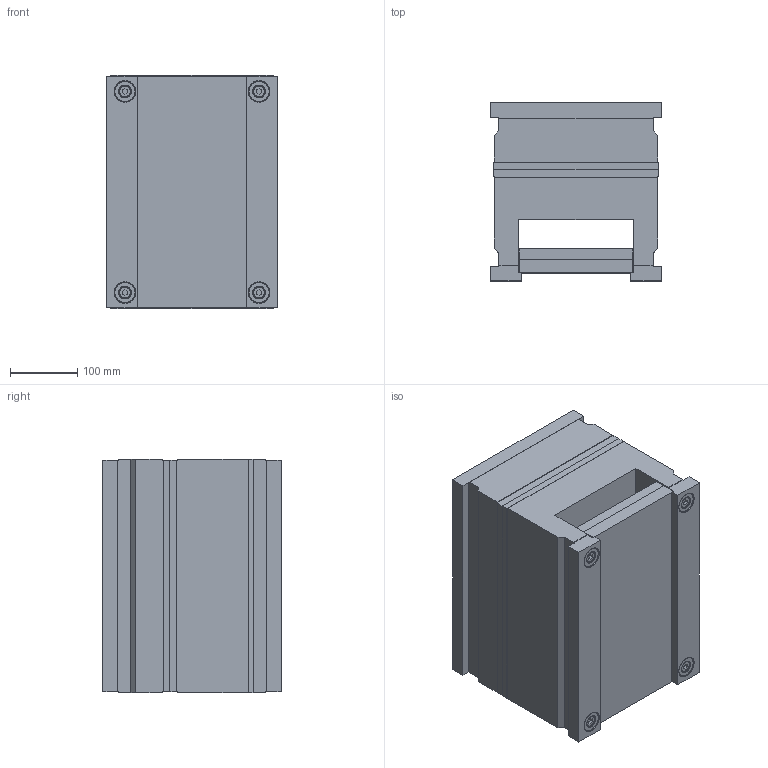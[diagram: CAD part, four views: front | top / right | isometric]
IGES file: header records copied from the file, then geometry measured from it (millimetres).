
Start section: SolidWorks IGES FILE using analytic representation for surfaces
Global section: file name: C:\Documents and Settings\K.P\My Documents\Mechanical\ALMO\CATL_EUR\RECT\2463.IGS; native system: SolidWorks 2001Plus by SolidWorks Corporation; preprocessor: Version 5.3; author: Pavel; date: 020709.092319; units: millimetre
Bounding box: 255 x 266 x 348 mm (x, y, z)
Surface area: 1174822 mm2 (no closed solid volume)
Topology: 0 solids, 0 shells, 706 faces, 11944 edges, 11936 vertices
Faces by surface type: revolution 452, bspline 254
